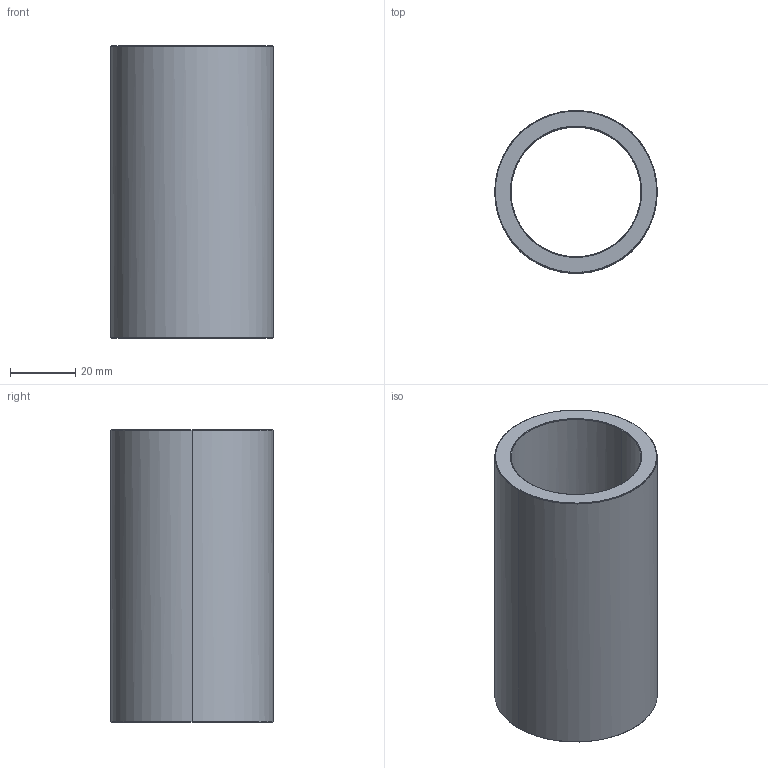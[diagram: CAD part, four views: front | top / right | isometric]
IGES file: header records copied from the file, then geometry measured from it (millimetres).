
Start section: Write IGES format                                    datakit 2008 (c)
Global section: file name: Unknown; native system: DATAKIT Converter; preprocessor: Unknown; author: Unknown; organization: Unknown; date: 950613.180003; units: millimetre
Bounding box: 50 x 49.92 x 90 mm (x, y, z)
Surface area: 26794.4 mm2 (no closed solid volume)
Topology: 0 solids, 0 shells, 14 faces, 56 edges, 56 vertices
Faces by surface type: revolution 12, bspline 2
